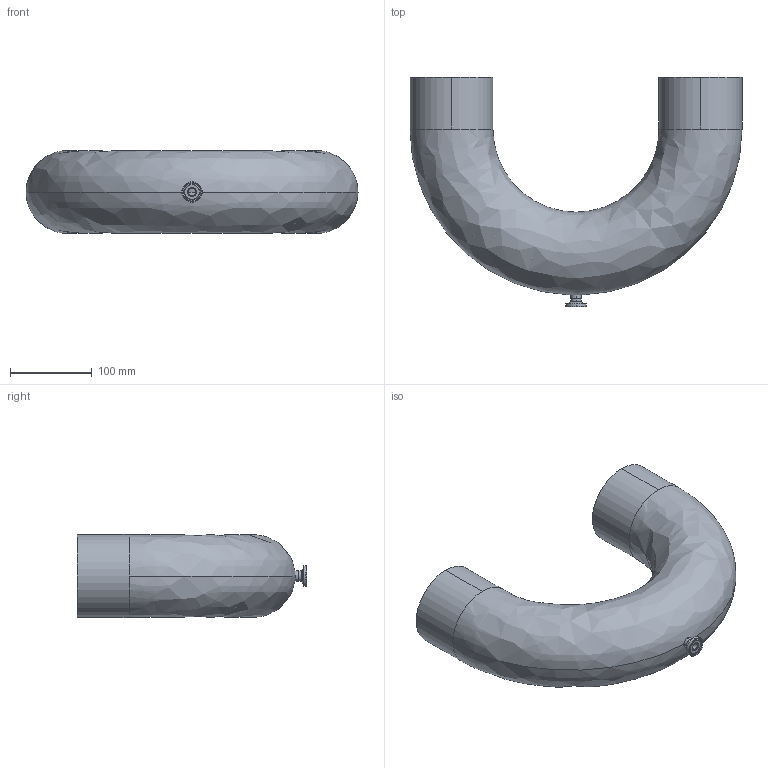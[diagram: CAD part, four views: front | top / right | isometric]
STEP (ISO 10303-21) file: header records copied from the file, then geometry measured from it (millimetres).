
FILE_DESCRIPTION (( 'STEP AP214' ), '1' );
FILE_NAME ('TE2UBWWC6L4.0x.5-...STEP', '2016-05-25T05:23:25', ( 'eran' ), ( '' ), 'SwSTEP 2.0', 'SolidWorks 2016', '' );
FILE_SCHEMA (( 'AUTOMOTIVE_DESIGN' ));
Length unit declared in the file: millimetre
Products named in the file (1): TE2UBWWC6L4.0x.5-..
Bounding box: 406.4 x 281 x 101.6 mm (x, y, z)
Volume: 401508.6 mm3; surface area: 381959.6 mm2
Topology: 2 solids, 2 shells, 42 faces, 104 edges, 66 vertices
Faces by surface type: cylinder 20, bspline 12, plane 6, cone 4
Entity records: 1599 total; most frequent: CARTESIAN_POINT 557, DIRECTION 222, ORIENTED_EDGE 208, EDGE_CURVE 104, AXIS2_PLACEMENT_3D 99, CIRCLE 68, VERTEX_POINT 66, EDGE_LOOP 48
